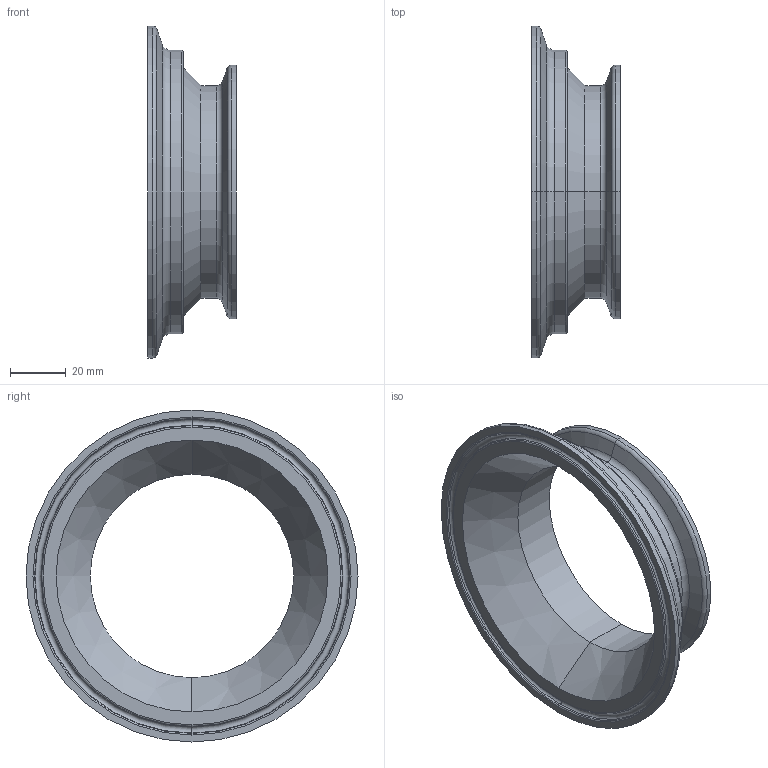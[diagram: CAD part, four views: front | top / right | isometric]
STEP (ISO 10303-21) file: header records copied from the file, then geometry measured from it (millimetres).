
FILE_DESCRIPTION (( 'STEP AP203' ), '1' );
FILE_NAME ('TEG31I6L4.0X3.0.STEP', '2021-10-14T18:05:35', ( '' ), ( '' ), 'SwSTEP 2.0', 'SolidWorks 2021', '' );
FILE_SCHEMA (( 'CONFIG_CONTROL_DESIGN' ));
Length unit declared in the file: inch
Products named in the file (1): TEG31I6L4.0X3.0
Bounding box: 31.75 x 118.92 x 118.92 mm (x, y, z)
Volume: 56956.2 mm3; surface area: 30633.8 mm2
Topology: 1 solids, 1 shells, 49 faces, 98 edges, 54 vertices
Faces by surface type: torus 18, cone 16, cylinder 10, plane 5
Entity records: 1355 total; most frequent: DIRECTION 270, CARTESIAN_POINT 202, ORIENTED_EDGE 196, AXIS2_PLACEMENT_3D 122, EDGE_CURVE 98, CIRCLE 72, EDGE_LOOP 54, VERTEX_POINT 54
